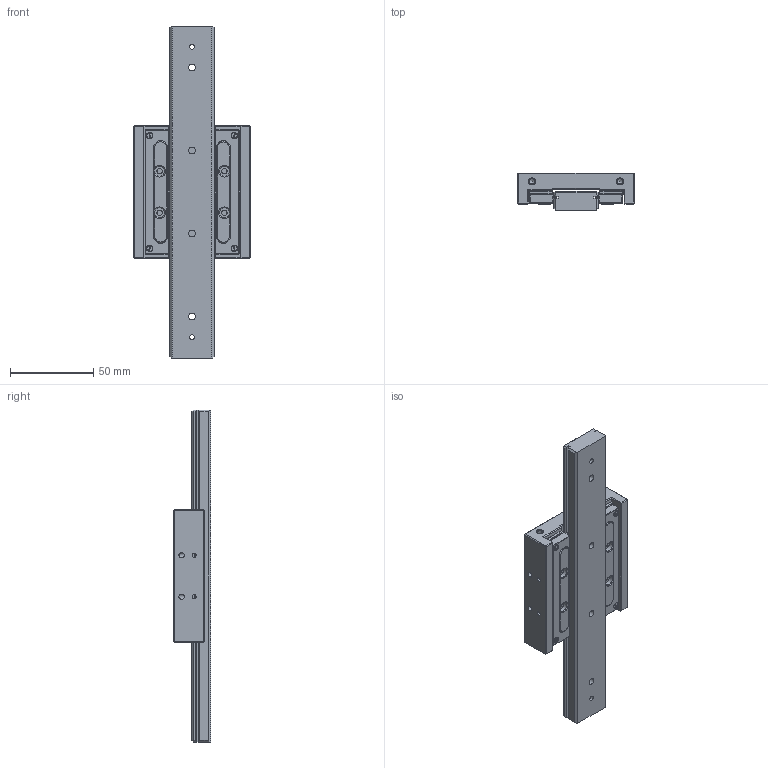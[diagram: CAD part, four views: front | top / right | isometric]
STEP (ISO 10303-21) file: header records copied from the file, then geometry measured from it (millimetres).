
FILE_DESCRIPTION(/* description */ ('TAVOLA TRKD03 L=200'),/* implementation_level */ '2;1');
FILE_NAME(/* name */ 'TRKD030200-00.stp',/* time_stamp */ '2024-01-24T15:28:55+01:00',/* author */ ('Rosa sistemi'),/* organization */ (''),/* preprocessor_version */ 'ST-DEVELOPER v20',/* originating_system */ 'Autodesk Inventor 2024',/* authorisation */ '');
FILE_SCHEMA (('AUTOMOTIVE_DESIGN { 1 0 10303 214 3 1 1 }'));
Length unit declared in the file: millimetre
Products named in the file (2): TRKD030200-00; TRKD030200-00_1
Assembly tree (1 placements, depth 2):
  TRKD030200-00
    TRKD030200-00_1
Bounding box: 70 x 22.5 x 200 mm (x, y, z)
Volume: 135857.9 mm3; surface area: 44291.7 mm2
Topology: 40 solids, 40 shells, 649 faces, 1685 edges, 1069 vertices
Faces by surface type: plane 398, cylinder 77, cone 72, sphere 50, bspline 36, torus 16
Full cylindrical faces by diameter (mm): 1.5 x2, 1.889 x1, 2.459 x2, 3 x4, 3.242 x16, 4 x6, 4.134 x4, 5.195 x1, 6 x4, 7 x4, 7.5 x8
Entity records: 20326 total; most frequent: CARTESIAN_POINT 4266, ORIENTED_EDGE 3146, DIRECTION 3039, EDGE_CURVE 1573, VERTEX_POINT 1069, LINE 1015, VECTOR 1015, AXIS2_PLACEMENT_3D 1012
